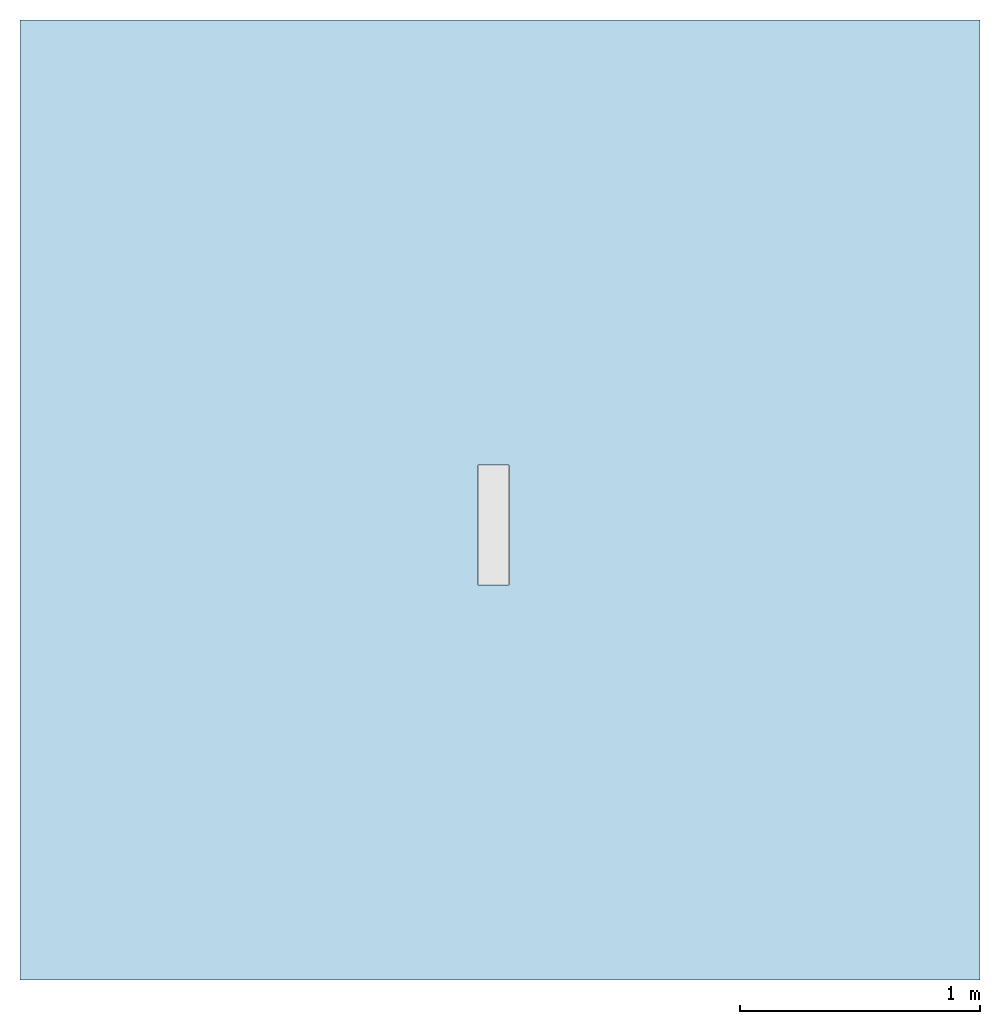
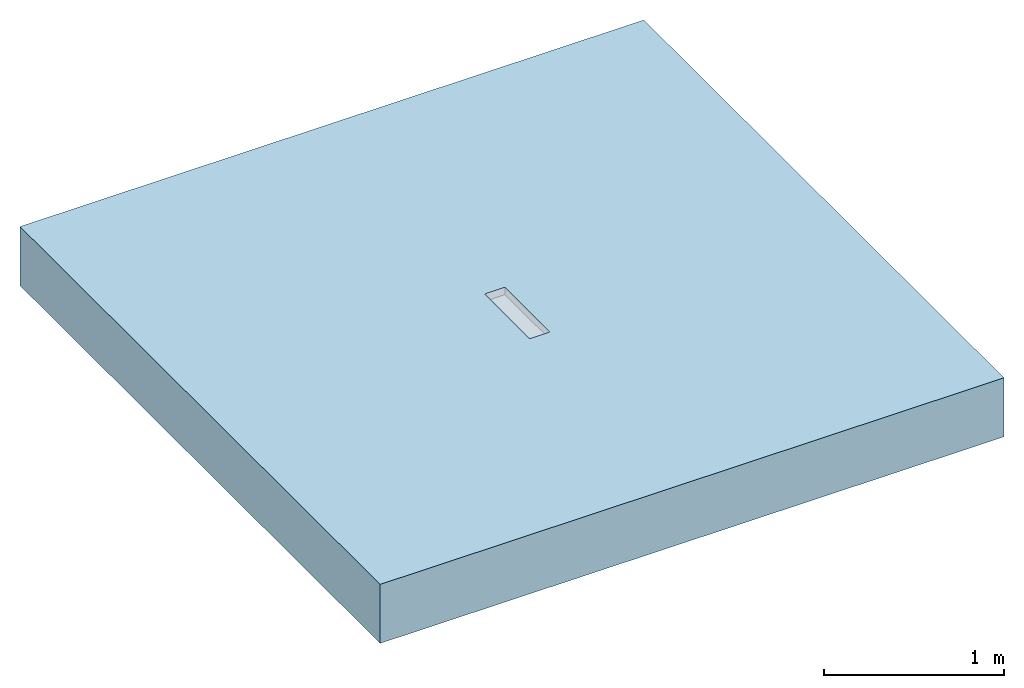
# One storey, incomplete: 1 slab.
"""IFC2X3 building model written with IfcOpenShell, lengths in millimetres."""

from ifc_helpers import new_model, entity, si_unit, converted_unit, derived_unit, direction, frame, frame_2d, origin, place, context, subcontext, project, spatial, polyline, rectangle, extrude, clip, bounded_halfspace, material, layer, layer_set, layer_usage, element, save


model = new_model("IFC2X3")

# Units and contexts
model_context = context("Model", 3, precision=1e-05, world=origin(), true_north=direction((2.0, 6.12303176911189e-17, 1.0)))
context_of_model = context(None, 3, precision=1e-05, world=origin(), true_north=direction((2.0, 6.12303176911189e-17, 1.0)))
body_context = subcontext(model_context, "Body", "Model", "MODEL_VIEW")
ifc_project = project(units=[si_unit("LENGTHUNIT", "METRE", prefix="MILLI"), si_unit("AREAUNIT", "SQUARE_METRE"), si_unit("VOLUMEUNIT", "CUBIC_METRE"), converted_unit("PLANEANGLEUNIT", "DEGREE", entity("IfcRatioMeasure", 0.0174532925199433), si_unit("PLANEANGLEUNIT", "RADIAN"), dimensions=[0, 0, 0, 0, 0, 0, 0]), si_unit("MASSUNIT", "GRAM", prefix="KILO"), si_unit("TIMEUNIT", "SECOND"), si_unit("THERMODYNAMICTEMPERATUREUNIT", "KELVIN"), derived_unit("THERMALTRANSMITTANCEUNIT", [(si_unit("MASSUNIT", "GRAM", prefix="KILO"), 1), (si_unit("THERMODYNAMICTEMPERATUREUNIT", "KELVIN"), -1), (si_unit("TIMEUNIT", "SECOND"), -3)]), derived_unit("VOLUMETRICFLOWRATEUNIT", [(si_unit("LENGTHUNIT", "METRE"), 3), (si_unit("TIMEUNIT", "SECOND"), -1)]), si_unit("POWERUNIT", "WATT")], contexts=[model_context, context_of_model])

# Site, building, storey
site_placement = place(None, origin())
site = spatial("IfcSite", under=ifc_project, at=site_placement, Name="Default", CompositionType="ELEMENT")
building_placement = place(site_placement, origin())
building = spatial("IfcBuilding", under=site, at=building_placement, CompositionType="ELEMENT")
storey_placement = place(building_placement, origin())
storey = spatial("IfcBuildingStorey", under=building, at=storey_placement, Name="Level 1", CompositionType="ELEMENT", Elevation=0.0)

# Slab
ifc_material = material(Name="Concrete, Broom Finish")
ifc_layer = layer(ifc_material, 400.0)
ifc_layer_set = layer_set([ifc_layer], Name="Floor:Generic Floor - 400mm")
ifc_layer_usage = layer_usage(ifc_layer_set, "AXIS3", "POSITIVE", 0.0)
slab_placement = place(storey_placement, origin())
element("IfcSlab", 1, at=slab_placement, inside=storey, material=ifc_layer_usage, Name="Floor:Generic Floor - 400mm", ObjectType="Floor:Generic Floor - 400mm", PredefinedType="FLOOR", context=body_context, shape_type="Clipping", body=[
    clip(extrude(rectangle(XDim=4000.0, YDim=4000.0, at=frame_2d((3.41060513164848e-13, 0.0), x_axis=(1.0, 0.0))), frame((-42.1761383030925, 2.05004766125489, 0.0), z_axis=(0.0, 0.0, -1.0), x_axis=(0.0, 1.0, 0.0)), (0.0, 0.0, 1.0), 400.0), bounded_halfspace(frame((-133.842804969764, -353.158285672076, -50.0)), False, frame((-42.1761383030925, 2.05004766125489, 0.0), z_axis=(0.0, 0.0, -1.0), x_axis=(0.0, 1.0, 0.0)), polyline([(-355.208333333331, -91.6666666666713), (-355.20833333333, 38.3333333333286), (144.79166666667, 38.3333333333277), (144.791666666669, -91.6666666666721), (-355.208333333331, -91.6666666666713)]))),
])

save(model, "model.ifc")
